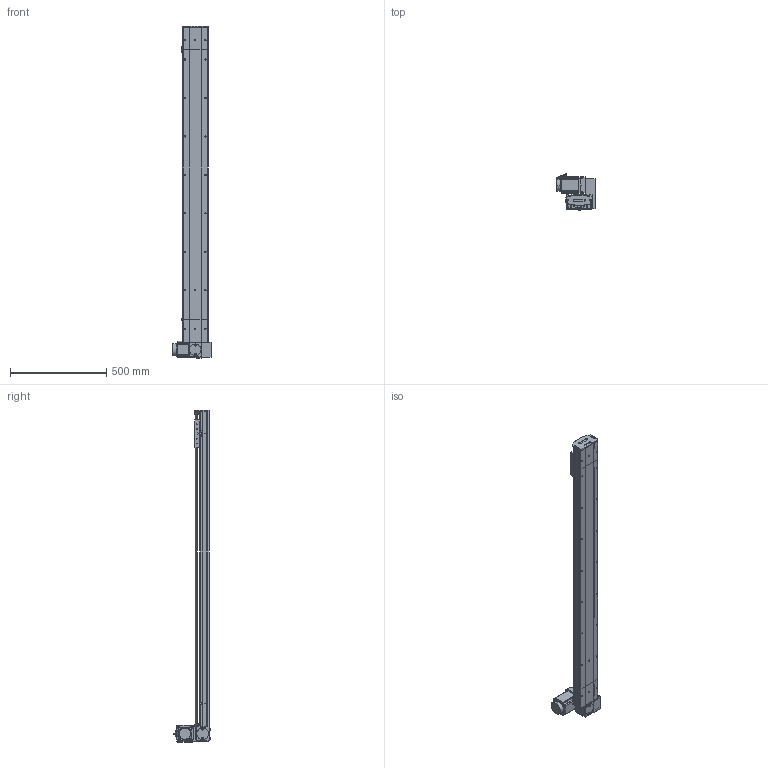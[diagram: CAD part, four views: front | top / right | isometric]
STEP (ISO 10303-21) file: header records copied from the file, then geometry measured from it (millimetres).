
FILE_DESCRIPTION (( 'STEP AP214' ), '1' );
FILE_NAME ('D14 TBH LT S1400.STEP', '2010-06-29T13:59:29', ( 'Conseil Régional Haute-Normandie' ), ( 'Conseil Régional Haute-Normandie' ), 'SwSTEP 2.0', 'SolidWorks 2010', '' );
FILE_SCHEMA (( 'AUTOMOTIVE_DESIGN' ));
Length unit declared in the file: millimetre
Products named in the file (39): corps 90BLDC100A-640; plaque de  bout head D14 LT_Default; couvercle D14 head_Default; Moteur motionking 90BLDC100A-640; Arbre+rail head D14; avant 90BLDC100A-640; corp head D14_Default; codeur 90BLDC100-640; couroie 2_Default; D14 TB H LT_Default; poulie head_Default; Conecteur2_Default; guide D14; Vis M5 L16-2_Default; vis M5 L5_Default; renvoi LH_Default; Plaque racord D14_Default; Cache_Default; chariot D14B_Default; Cvis M5 L70_Default; Chariot D14; Conecteur_Default; vis M5 L12_Default; Cache arbre_Default; couvercle D14 course L1400_Default; Rail + couroie D14 Course 1400 ; couvercle D14_Default; Arbre+rail tail D14; vis M5 L16_Default; D14 couroie L1400_Default; Couroie_Default; poulie tail_Default; vis M5 L8 90°_Default; corpl 1400_Default; tete d''axe haut D14; D14 TBH LT S1400; plaque de  bout tail D14_Default; corpl tail D14_Default; Tail D14B_Default
Assembly tree (68 placements, depth 4):
  D14 TBH LT S1400
    Tail D14B_Default
      vis M5 L12_Default  x4
      poulie tail_Default
      Couroie_Default
      couvercle D14_Default
      corpl tail D14_Default
      vis M5 L16_Default  x2
      vis M5 L8 90°_Default  x2
      Arbre+rail tail D14
      tete d''axe haut D14
      plaque de  bout tail D14_Default
    D14 couroie L1400_Default
      Rail + couroie D14 Course 1400 
      corpl 1400_Default
      couvercle D14 course L1400_Default
    D14 TB H LT_Default
      Arbre+rail head D14
      vis M5 L12_Default  x12
      Vis M5 L16-2_Default  x4
      Cache arbre_Default
      couroie 2_Default
      corp head D14_Default
      vis M5 L5_Default  x2
      Cvis M5 L70_Default  x4
      couvercle D14 head_Default
      Plaque racord D14_Default
      Cache_Default  x2
      poulie head_Default
      renvoi LH_Default
      plaque de  bout head D14 LT_Default
      Moteur motionking 90BLDC100A-640
        Conecteur_Default
        corps 90BLDC100A-640
        avant 90BLDC100A-640
        Conecteur2_Default
        codeur 90BLDC100-640
    chariot D14B_Default
      vis M5 L12_Default  x4
      guide D14  x2
      Chariot D14
Bounding box: 207.2 x 189.1 x 1725.75 mm (x, y, z)
Volume: 7303909.9 mm3; surface area: 2456976 mm2
Topology: 92 solids, 92 shells, 2645 faces, 6467 edges, 4170 vertices
Faces by surface type: plane 1593, cylinder 739, bspline 136, torus 89, cone 84, sphere 4
Entity records: 79640 total; most frequent: CARTESIAN_POINT 23621, ORIENTED_EDGE 9794, DIRECTION 9588, EDGE_CURVE 4897, VECTOR 3286, LINE 3286, VERTEX_POINT 3220, AXIS2_PLACEMENT_3D 3151
